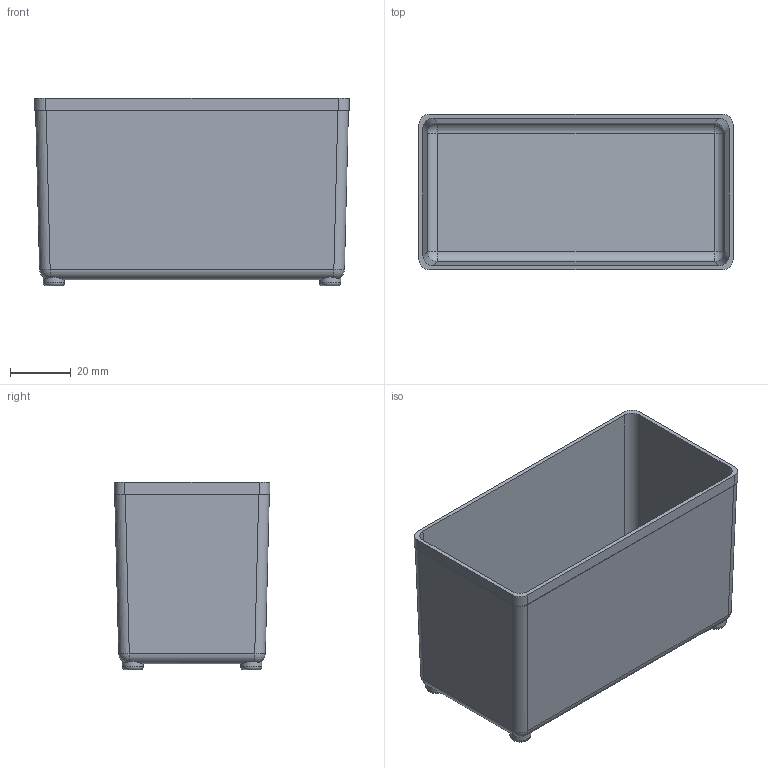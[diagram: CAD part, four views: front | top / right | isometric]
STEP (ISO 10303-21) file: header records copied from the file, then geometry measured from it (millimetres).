
FILE_DESCRIPTION(/* description */ (''),/* implementation_level */ '2;1');
FILE_NAME(/* name */ 'C:/Users/rolf/Downloads/L-Boxx B3/L-Boxx B3 104x52x60 (2X1).step',/* time_stamp */ '2020-01-26T15:29:07+01:00',/* author */ (''),/* organization */ (''),/* preprocessor_version */ 'ST-DEVELOPER v18',/* originating_system */ 'Autodesk Translation Framework v8.12.0.6',/* authorisation */ '');
FILE_SCHEMA (('AUTOMOTIVE_DESIGN { 1 0 10303 214 3 1 1 }'));
Length unit declared in the file: millimetre
Products named in the file (1): L-Boxx B3 104x52x60
Bounding box: 103.8 x 51.5 x 62 mm (x, y, z)
Volume: 27656.4 mm3; surface area: 43972 mm2
Topology: 1 solids, 1 shells, 56 faces, 140 edges, 88 vertices
Faces by surface type: cylinder 24, plane 20, sphere 8, torus 4
Full cylindrical faces by diameter (mm): 7 x4
Entity records: 1845 total; most frequent: CARTESIAN_POINT 443, DIRECTION 306, ORIENTED_EDGE 280, EDGE_CURVE 140, AXIS2_PLACEMENT_3D 123, VERTEX_POINT 88, LINE 60, VECTOR 60
